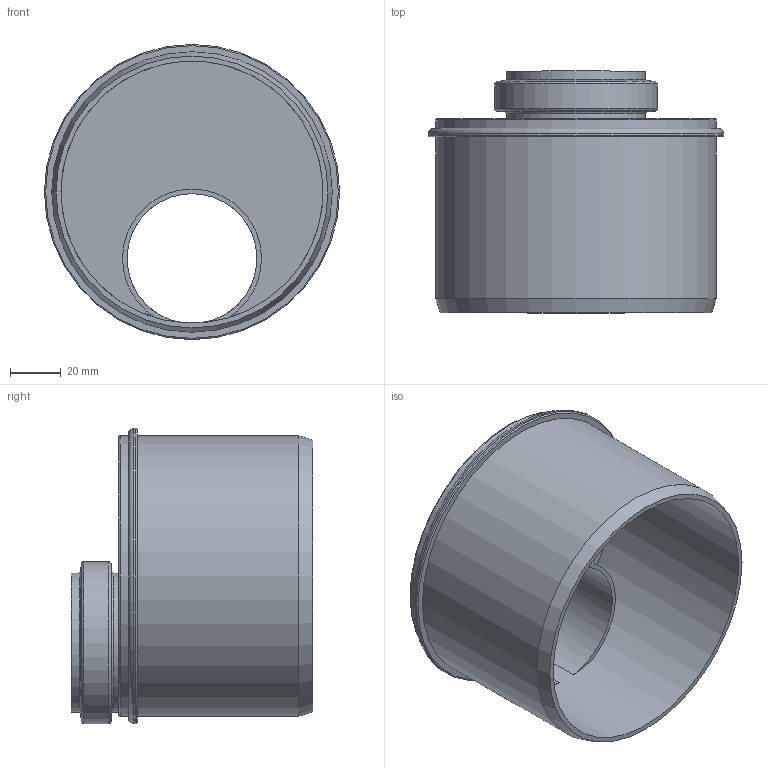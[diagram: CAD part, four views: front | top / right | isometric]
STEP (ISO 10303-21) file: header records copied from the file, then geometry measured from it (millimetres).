
FILE_DESCRIPTION(/* description */ (''),/* implementation_level */ '2;1');
FILE_NAME(/* name */ 'Z:\Geberit\Export\Export15\Reduktion PP-MD_Ipart\stp\390575.stp',/* time_stamp */ '2014-04-27T21:13:19+02:00',/* author */ ('Bründl'),/* organization */ (''),/* preprocessor_version */ 'ST-DEVELOPER v15.2',/* originating_system */ 'Autodesk Inventor 2014',/* authorisation */ '');
FILE_SCHEMA (('AUTOMOTIVE_DESIGN { 1 0 10303 214 3 1 1 }'));
Length unit declared in the file: millimetre
Products named in the file (1): 390575
Bounding box: 116 x 95 x 116 mm (x, y, z)
Volume: 153582 mm3; surface area: 82248.7 mm2
Topology: 1 solids, 1 shells, 35 faces, 71 edges, 41 vertices
Faces by surface type: torus 11, cylinder 11, plane 8, cone 5
Full cylindrical faces by diameter (mm): 51 x2, 54.6 x2, 60.1 x1, 63.7 x1, 103 x1, 110.2 x2, 116 x1
Entity records: 814 total; most frequent: DIRECTION 152, CARTESIAN_POINT 116, ORIENTED_EDGE 84, AXIS2_PLACEMENT_3D 74, EDGE_LOOP 66, EDGE_CURVE 42, CIRCLE 38, VERTEX_POINT 38
